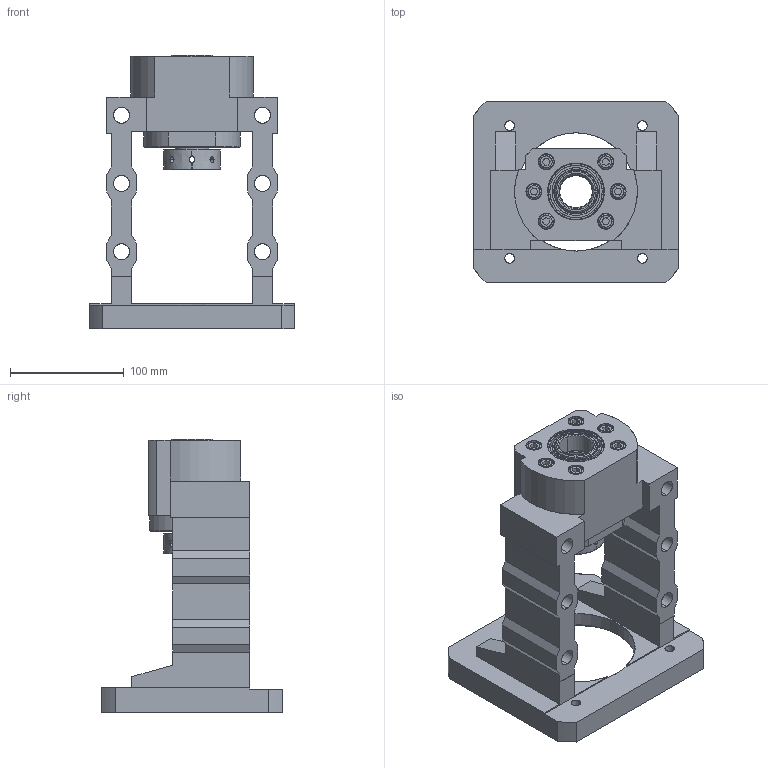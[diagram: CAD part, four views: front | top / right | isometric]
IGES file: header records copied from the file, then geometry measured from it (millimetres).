
Start section: SolidWorks IGES file using analytic representation for surfaces
Bounding box: 180 x 160 x 241 mm (x, y, z)
Surface area: 214977.9 mm2 (no closed solid volume)
Topology: 0 solids, 0 shells, 333 faces, 5754 edges, 5746 vertices
Faces by surface type: revolution 170, bspline 163
